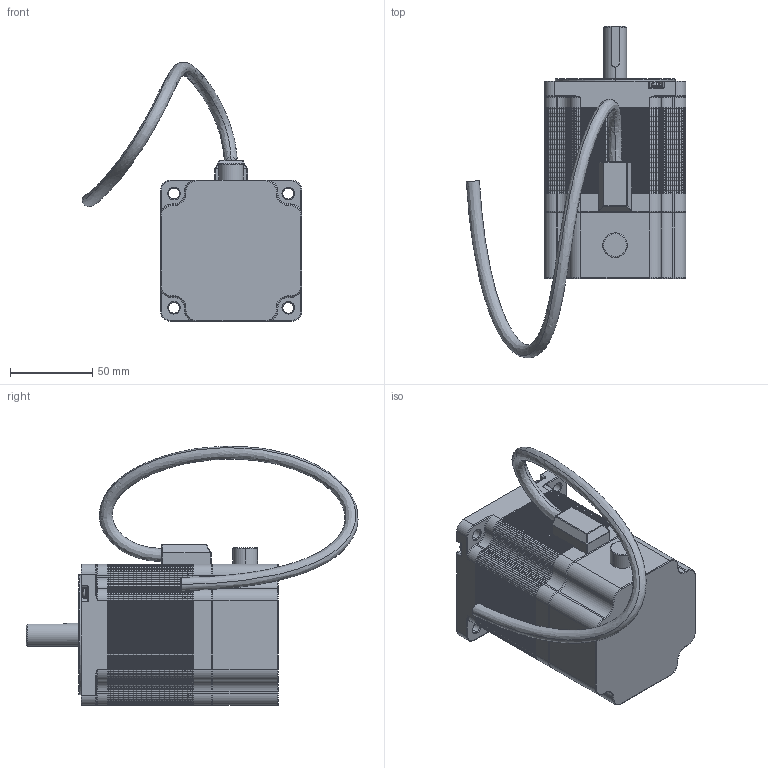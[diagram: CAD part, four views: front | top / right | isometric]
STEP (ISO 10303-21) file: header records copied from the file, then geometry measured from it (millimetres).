
FILE_DESCRIPTION (( 'STEP AP214' ), '1' );
FILE_NAME ('NEMA34_80mm_14mm_shaft_key_BRK.STEP', '2020-11-16T05:46:10', ( 'Moofasta' ), ( '' ), 'SwSTEP 2.0', 'SolidWorks 2020', '' );
FILE_SCHEMA (( 'AUTOMOTIVE_DESIGN' ));
Length unit declared in the file: millimetre
Products named in the file (1): NEMA34_80mm_14mm_shaft_key_BRK
Bounding box: 133.66 x 202.27 x 158.17 mm (x, y, z)
Volume: 814496.3 mm3; surface area: 501380.4 mm2
Topology: 44 solids, 44 shells, 4653 faces, 10445 edges, 5822 vertices
Faces by surface type: plane 2278, cone 1252, cylinder 857, bspline 126, torus 117, sphere 23
Entity records: 177419 total; most frequent: CARTESIAN_POINT 29051, DIRECTION 22000, ORIENTED_EDGE 20808, EDGE_CURVE 10404, AXIS2_PLACEMENT_3D 7421, VECTOR 7158, LINE 7158, VERTEX_POINT 5822
